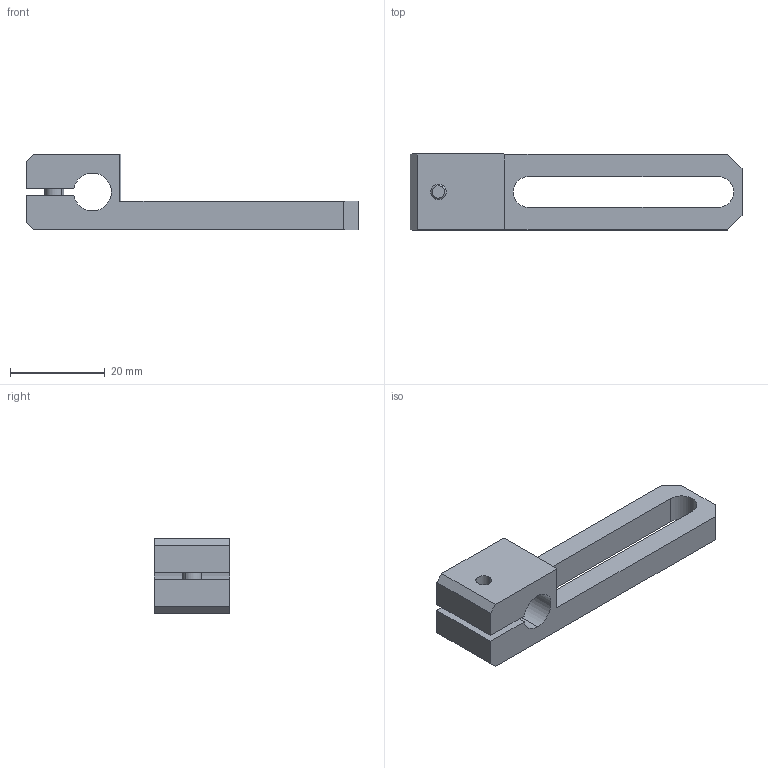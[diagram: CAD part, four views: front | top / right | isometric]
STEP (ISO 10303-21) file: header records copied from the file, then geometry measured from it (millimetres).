
FILE_DESCRIPTION (( 'STEP AP214' ), '1' );
FILE_NAME ('SCF5-0840W16T.STEP', '2023-01-17T06:49:36', ( 'Windows User' ), ( 'P R C' ), 'SwSTEP 2.0', 'SolidWorks 2019', '' );
FILE_SCHEMA (( 'AUTOMOTIVE_DESIGN' ));
Length unit declared in the file: millimetre
Products named in the file (1): SCF5-0840W16T
Bounding box: 70 x 16 x 16 mm (x, y, z)
Volume: 6933.6 mm3; surface area: 5021.6 mm2
Topology: 3 solids, 3 shells, 245 faces, 702 edges, 464 vertices
Faces by surface type: plane 222, cylinder 19, cone 2, bspline 2
Entity records: 10912 total; most frequent: CARTESIAN_POINT 1536, DIRECTION 1410, ORIENTED_EDGE 1404, EDGE_CURVE 702, LINE 474, VECTOR 474, AXIS2_PLACEMENT_3D 468, VERTEX_POINT 464
